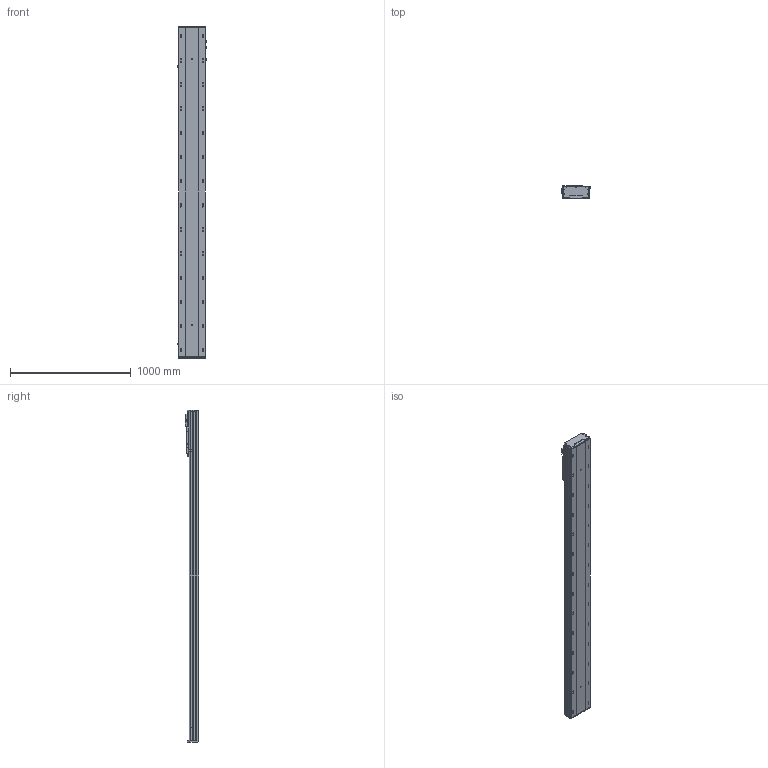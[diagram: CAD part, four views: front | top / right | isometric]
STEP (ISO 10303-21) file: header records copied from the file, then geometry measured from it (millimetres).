
FILE_DESCRIPTION (( 'STEP AP203' ), '1' );
FILE_NAME ('BEH22-A-M2-2300-L1-¦Õ22-PCD100-M6-C3.STEP', '2022-06-21T05:56:46', ( 'CXY' ), ( 'BT' ), 'SwSTEP 2.0', 'SolidWorks 2016', '' );
FILE_SCHEMA (( 'CONFIG_CONTROL_DESIGN' ));
Products named in the file (12): BTH22-07-DZ; BEH22-A-M2-2300-L1-耳22-PCD100-M6-C3; FS-25-6.66-M2-H22K6; BEH22-B-01-XX-2; FS-01-10（10毫米）; FS-02-BTH22; _G-M6; BEH22-04-01_L; 萇儂階踡輸; BEH22-07-PCD100-80-M6; BEH22-04-F; PM-T65
Assembly tree (18 placements, depth 3):
  BEH22-A-M2-2300-L1-耳22-PCD100-M6-C3
    BEH22-B-01-XX-2
    BTH22-07-DZ  x2
    PM-T65  x2
    BEH22-04-01_L
      BEH22-04-F
      萇儂階踡輸
      _G-M6  x3
      FS-02-BTH22
      FS-01-10（10毫米）  x4
      BEH22-07-PCD100-80-M6
      FS-25-6.66-M2-H22K6
Bounding box: 247.7 x 111 x 2748 mm (x, y, z)
Volume: 28954644.4 mm3; surface area: 2869344.3 mm2
Topology: 21 solids, 21 shells, 2220 faces, 6400 edges, 4146 vertices
Faces by surface type: cylinder 1088, plane 840, cone 233, bspline 37, torus 22
Entity records: 460360 total; most frequent: CARTESIAN_POINT 411663, ORIENTED_EDGE 10620, DIRECTION 9154, EDGE_CURVE 5310, VERTEX_POINT 3506, AXIS2_PLACEMENT_3D 3344, LINE 2466, VECTOR 2466
